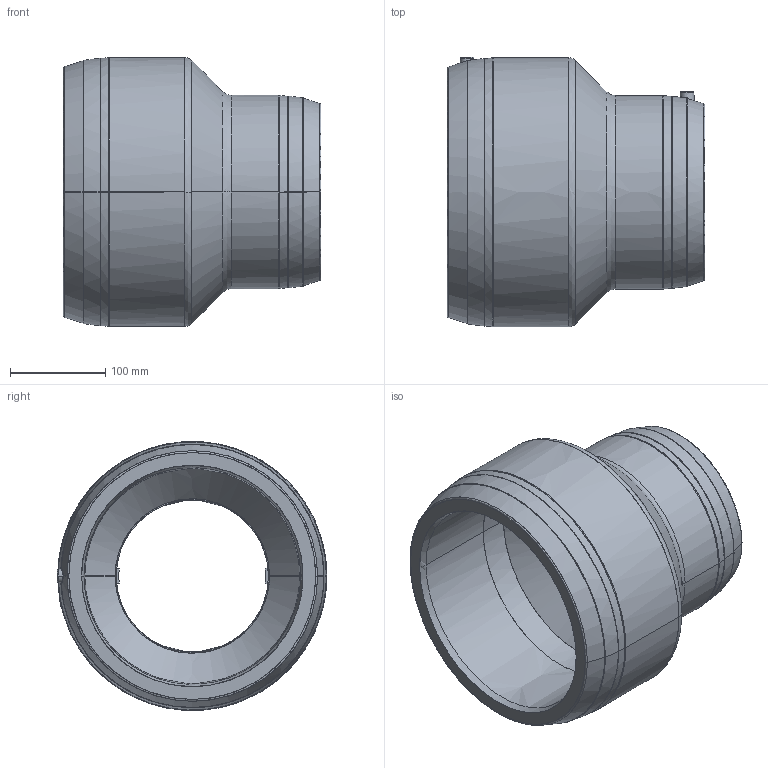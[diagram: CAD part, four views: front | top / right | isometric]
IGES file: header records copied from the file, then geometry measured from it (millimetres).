
Start section:  PTC IGES file: mr_d225-160_01.igs
Global section: file name: mr_d225-160_01.igs; native system: Pro/ENGINEER by Parametric Technology Corporation; preprocessor: 2011490; author: mtunjic; organization: Unknown; date: 20130816.161842; units: millimetre
Bounding box: 270 x 282.65 x 282 mm (x, y, z)
Surface area: 413443.2 mm2 (no closed solid volume)
Topology: 0 solids, 0 shells, 230 faces, 1124 edges, 1124 vertices
Faces by surface type: bspline 230
